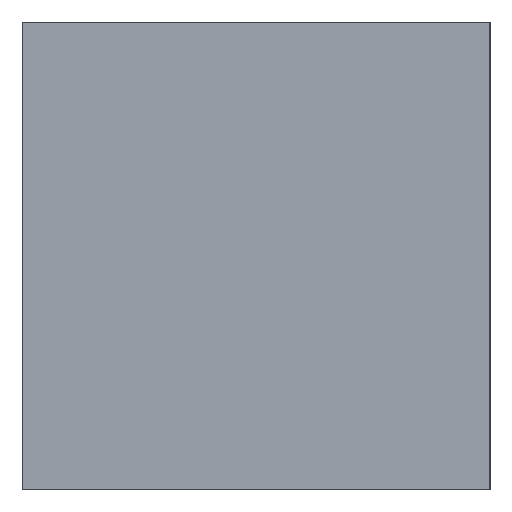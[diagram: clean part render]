
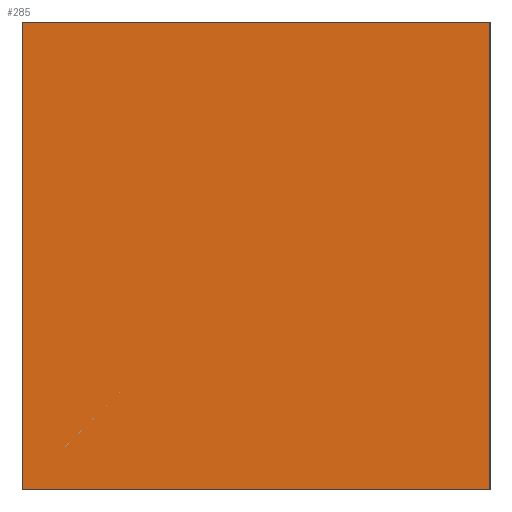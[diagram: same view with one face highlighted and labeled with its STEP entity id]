
A CAD part, left-side view. The second image highlights one B-rep face of the part: STEP entity #285.
In plain terms, the highlighted planar face has unit normal (-1, 0, 0).
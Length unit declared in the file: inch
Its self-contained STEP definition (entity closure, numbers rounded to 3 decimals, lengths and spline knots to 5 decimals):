
#2 = VECTOR ( 'NONE', #200, 39.37008 ) ;
#4 = FACE_OUTER_BOUND ( 'NONE', #20, .T. ) ;
#5 = ORIENTED_EDGE ( 'NONE', *, *, #105, .F. ) ;
#20 = EDGE_LOOP ( 'NONE', ( #31, #5, #167, #81 ) ) ;
#31 = ORIENTED_EDGE ( 'NONE', *, *, #162, .T. ) ;
#43 = VECTOR ( 'NONE', #217, 39.37008 ) ;
#44 = CARTESIAN_POINT ( 'NONE',  ( -0.98663, 0., -0.03209 ) ) ;
#54 = DIRECTION ( 'NONE',  ( 0., 0., -1. ) ) ;
#59 = CARTESIAN_POINT ( 'NONE',  ( -0.98663, 0.75, 0.71791 ) ) ;
#70 = CARTESIAN_POINT ( 'NONE',  ( -0.98663, 0., 0.71791 ) ) ;
#81 = ORIENTED_EDGE ( 'NONE', *, *, #131, .T. ) ;
#91 = LINE ( 'NONE', #59, #331 ) ;
#105 = EDGE_CURVE ( 'NONE', #249, #224, #91, .T. ) ;
#131 = EDGE_CURVE ( 'NONE', #309, #152, #299, .T. ) ;
#152 = VERTEX_POINT ( 'NONE', #157 ) ;
#157 = CARTESIAN_POINT ( 'NONE',  ( -0.98663, 0., -0.03209 ) ) ;
#162 = EDGE_CURVE ( 'NONE', #152, #224, #197, .T. ) ;
#167 = ORIENTED_EDGE ( 'NONE', *, *, #256, .F. ) ;
#169 = DIRECTION ( 'NONE',  ( 1., 0., 0. ) ) ;
#197 = LINE ( 'NONE', #44, #2 ) ;
#199 = LINE ( 'NONE', #301, #271 ) ;
#200 = DIRECTION ( 'NONE',  ( 0., 0., 1. ) ) ;
#211 = CARTESIAN_POINT ( 'NONE',  ( -0.98663, 0.75, 0.71791 ) ) ;
#215 = DIRECTION ( 'NONE',  ( 0., 0., 1. ) ) ;
#217 = DIRECTION ( 'NONE',  ( 0., -1., 0. ) ) ;
#224 = VERTEX_POINT ( 'NONE', #70 ) ;
#247 = AXIS2_PLACEMENT_3D ( 'NONE', #346, #169, #54 ) ;
#249 = VERTEX_POINT ( 'NONE', #211 ) ;
#256 = EDGE_CURVE ( 'NONE', #309, #249, #199, .T. ) ;
#265 = CARTESIAN_POINT ( 'NONE',  ( -0.98663, 0.75, -0.03209 ) ) ;
#271 = VECTOR ( 'NONE', #215, 39.37008 ) ;
#285 = ADVANCED_FACE ( 'NONE', ( #4 ), #377, .F. ) ;
#286 = DIRECTION ( 'NONE',  ( 0., -1., 0. ) ) ;
#299 = LINE ( 'NONE', #382, #43 ) ;
#301 = CARTESIAN_POINT ( 'NONE',  ( -0.98663, 0.75, -0.03209 ) ) ;
#309 = VERTEX_POINT ( 'NONE', #265 ) ;
#331 = VECTOR ( 'NONE', #286, 39.37008 ) ;
#346 = CARTESIAN_POINT ( 'NONE',  ( -0.98663, 0.75, -0.03209 ) ) ;
#377 = PLANE ( 'NONE',  #247 ) ;
#382 = CARTESIAN_POINT ( 'NONE',  ( -0.98663, 0.75, -0.03209 ) ) ;
